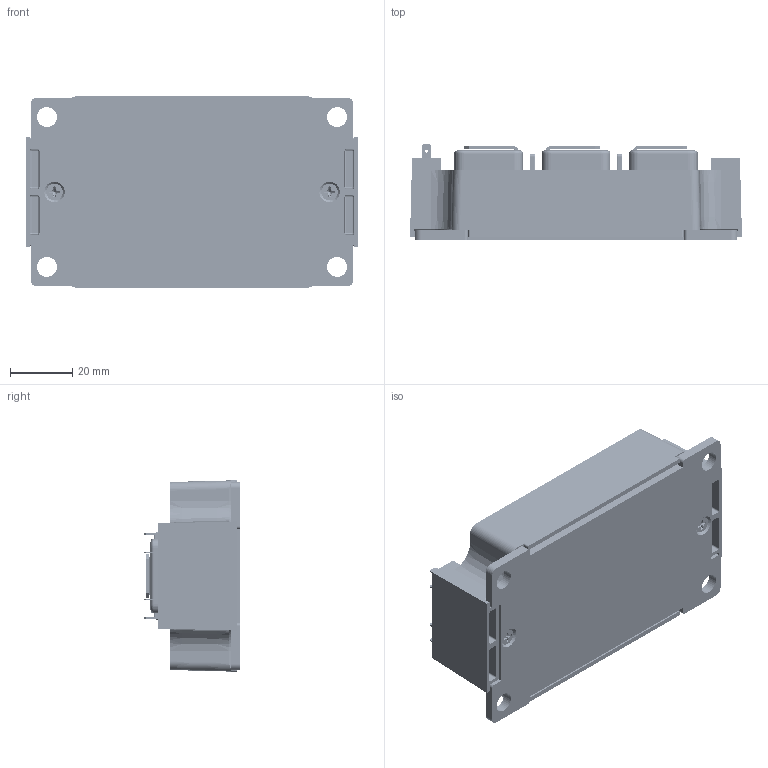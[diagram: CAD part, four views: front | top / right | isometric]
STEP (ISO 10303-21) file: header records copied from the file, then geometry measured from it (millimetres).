
FILE_DESCRIPTION (( 'STEP AP214' ), '1' );
FILE_NAME ('APM-015-006 (Full Model).STEP', '2022-06-24T16:11:35', ( '' ), ( '' ), 'SwSTEP 2.0', 'SolidWorks 2018', '' );
FILE_SCHEMA (( 'AUTOMOTIVE_DESIGN' ));
Length unit declared in the file: millimetre
Products named in the file (41): DBC-1.1; AWB-015-012; APM-015-006 (Full Model); AWB-015-011; AEN-015-006; DBC-3.1; AMS-015-006; ASA-015-024; 102200300EL (Housing Screw)_91307A002; CPF-015-003; CPF-015-001; CPF-015-005; MCP-015-003; WireBondLayout.signals-02; MHS-015-002; MBP-015-001; CPF-999-003 (Die Attach Preform); 011004000EF; AHS-015-001; CHD-015-002; MCP-015-002; WireBonds.CAS530M12BM2-001; CEN-015-001; APA-015-011; APA-015-012; DBC-2.1; WireBondLayout.04; WireBondLayout.Devices.low.02; CDD-999-009 (Wolfspeed Diode, 1200V 50A, Gen 6); ASA-015-022; MCP-015-001; CPF-015-004; ASA-015-023; WireBondLayout.02a; MHS-015-001; ASA-015-021; DBC-4.1; MCS-015-001; CDM-999-003 (Wolfspeed MOSFET, 1200V 16mOhm); CAD-015-001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
Assembly tree (115 placements, depth 9):
  APM-015-006 (Full Model)
    AEN-015-006
      AWB-015-012
        AMS-015-006
          AHS-015-001
            MHS-015-001
            MCS-015-001  x4
          APA-015-012
            AWB-015-011
              APA-015-011
                MBP-015-001
                011004000EF
                ASA-015-021
                  DBC-1.1
                  CPF-015-001  x3
                  CDM-999-003 (Wolfspeed MOSFET, 1200V 16mOhm)  x3
                  CDD-999-009 (Wolfspeed Diode, 1200V 50A, Gen 6)  x3
                  CPF-999-003 (Die Attach Preform)  x3
                ASA-015-022
                  DBC-2.1
                  CPF-015-001  x3
                  CDM-999-003 (Wolfspeed MOSFET, 1200V 16mOhm)  x3
                  CDD-999-009 (Wolfspeed Diode, 1200V 50A, Gen 6)  x3
                  CPF-999-003 (Die Attach Preform)  x3
                ASA-015-023
                  DBC-3.1
                  CPF-015-001  x3
                  CDM-999-003 (Wolfspeed MOSFET, 1200V 16mOhm)  x3
                  CDD-999-009 (Wolfspeed Diode, 1200V 50A, Gen 6)  x3
                  CPF-999-003 (Die Attach Preform)  x3
                ASA-015-024
                  DBC-4.1
                  CPF-015-001  x3
                  CDM-999-003 (Wolfspeed MOSFET, 1200V 16mOhm)  x3
                  CDD-999-009 (Wolfspeed Diode, 1200V 50A, Gen 6)  x3
                  CPF-999-003 (Die Attach Preform)  x3
                CPF-015-004  x4
                CPF-015-005
              WireBonds.CAS530M12BM2-001
                WireBondLayout.Devices.low.02
                WireBondLayout.02a
                WireBondLayout.signals-02
            MCP-015-001
            MCP-015-002
            MCP-015-003
            050800800EF  x12
            CPF-015-003  x12
          CAD-015-001
          102200300EL (Housing Screw)_91307A002  x2
        WireBondLayout.04
      CEN-015-001
    MHS-015-002
    CHD-015-002  x3
Bounding box: 106.4 x 30.8 x 61.4 mm (x, y, z)
Volume: 108668.6 mm3; surface area: 99030.5 mm2
Topology: 282 solids, 282 shells, 7310 faces, 18721 edges, 12108 vertices
Faces by surface type: cylinder 3748, plane 2801, bspline 565, torus 136, cone 60
Entity records: 288236 total; most frequent: CARTESIAN_POINT 127334, DIRECTION 33040, ORIENTED_EDGE 32276, EDGE_CURVE 16138, AXIS2_PLACEMENT_3D 12864, VERTEX_POINT 10403, EDGE_LOOP 7959, LINE 7312
